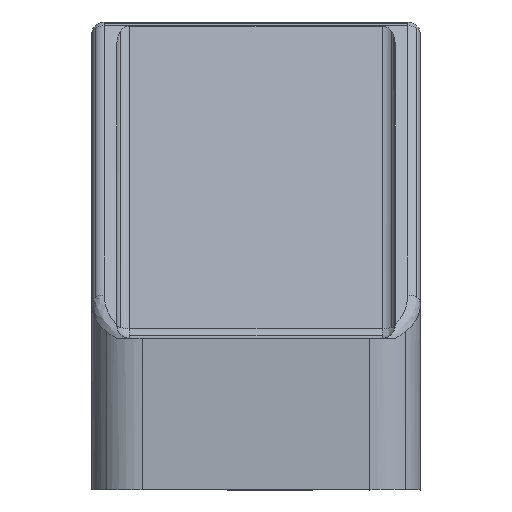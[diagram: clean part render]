
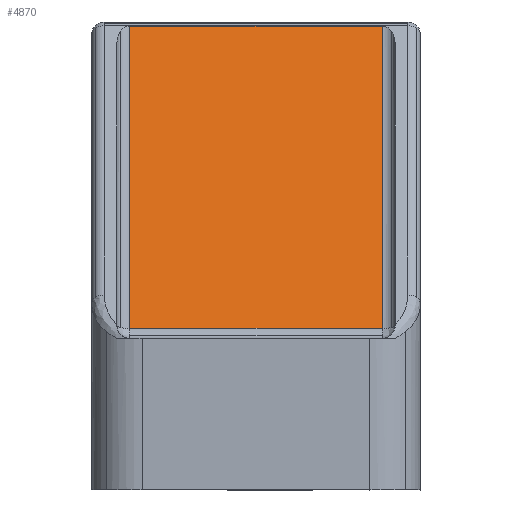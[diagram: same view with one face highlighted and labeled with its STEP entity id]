
A CAD part, left-side view. The second image highlights one B-rep face of the part: STEP entity #4870.
In plain terms, the highlighted planar face has unit normal (-0.974, 0, 0.225).
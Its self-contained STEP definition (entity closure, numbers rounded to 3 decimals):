
#1645=CARTESIAN_POINT('',(-47.304,-10.,18.184));
#1646=VERTEX_POINT('',#1645);
#1654=CARTESIAN_POINT('',(-52.821,-10.,-5.725));
#1655=VERTEX_POINT('',#1654);
#1656=CARTESIAN_POINT('',(-47.304,-10.,18.184));
#1657=DIRECTION('',(-0.225,0.,-0.974));
#1658=VECTOR('',#1657,24.537);
#1659=LINE('',#1656,#1658);
#1660=EDGE_CURVE('',#1646,#1655,#1659,.T.);
#1984=CARTESIAN_POINT('',(-52.821,10.,-5.725));
#1985=VERTEX_POINT('',#1984);
#2019=CARTESIAN_POINT('',(-47.304,10.,18.184));
#2020=VERTEX_POINT('',#2019);
#2021=CARTESIAN_POINT('',(-52.821,10.,-5.725));
#2022=DIRECTION('',(0.225,0.,0.974));
#2023=VECTOR('',#2022,24.537);
#2024=LINE('',#2021,#2023);
#2025=EDGE_CURVE('',#1985,#2020,#2024,.T.);
#2073=CARTESIAN_POINT('',(-52.821,-10.,-5.725));
#2074=DIRECTION('',(0.0,1.0,0.0));
#2075=VECTOR('',#2074,20.0);
#2076=LINE('',#2073,#2075);
#2077=EDGE_CURVE('',#1655,#1985,#2076,.T.);
#4854=CARTESIAN_POINT('',(-47.0,11.,19.5));
#4855=DIRECTION('',(0.974,0.,-0.225));
#4856=DIRECTION('',(0.225,0.,0.974));
#4857=AXIS2_PLACEMENT_3D('',#4854,#4855,#4856);
#4858=PLANE('',#4857);
#4859=ORIENTED_EDGE('',*,*,#1660,.F.);
#4860=CARTESIAN_POINT('',(-47.304,10.,18.184));
#4861=DIRECTION('',(0.0,-1.0,0.0));
#4862=VECTOR('',#4861,20.0);
#4863=LINE('',#4860,#4862);
#4864=EDGE_CURVE('',#2020,#1646,#4863,.T.);
#4865=ORIENTED_EDGE('',*,*,#4864,.F.);
#4866=ORIENTED_EDGE('',*,*,#2025,.F.);
#4867=ORIENTED_EDGE('',*,*,#2077,.F.);
#4868=EDGE_LOOP('',(#4859,#4865,#4866,#4867));
#4869=FACE_OUTER_BOUND('',#4868,.T.);
#4870=ADVANCED_FACE('',(#4869),#4858,.F.);
